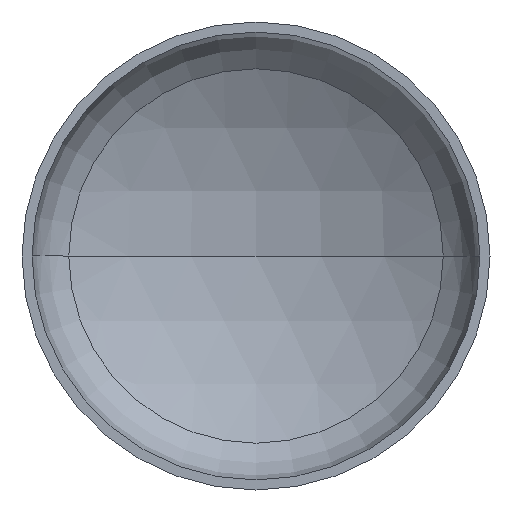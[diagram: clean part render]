
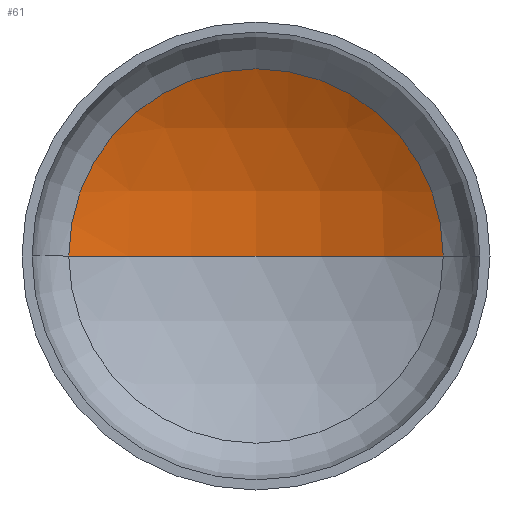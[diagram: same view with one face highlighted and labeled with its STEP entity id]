
A CAD part, front view. The second image highlights one B-rep face of the part: STEP entity #61.
In plain terms, the highlighted spherical face has radius 560 mm.
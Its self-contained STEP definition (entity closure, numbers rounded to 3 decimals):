
#7 = ORIENTED_EDGE ( 'NONE', *, *, #383, .T. ) ;
#8 = AXIS2_PLACEMENT_3D ( 'NONE', #247, #409, #320 ) ;
#17 = EDGE_LOOP ( 'NONE', ( #117, #7, #112 ) ) ;
#30 = AXIS2_PLACEMENT_3D ( 'NONE', #149, #150, #403 ) ;
#49 = DIRECTION ( 'NONE',  ( 0., 0., -1. ) ) ;
#61 = ADVANCED_FACE ( 'NONE', ( #296 ), #142, .F. ) ;
#96 = AXIS2_PLACEMENT_3D ( 'NONE', #363, #294, #359 ) ;
#99 = VERTEX_POINT ( 'NONE', #249 ) ;
#112 = ORIENTED_EDGE ( 'NONE', *, *, #345, .T. ) ;
#117 = ORIENTED_EDGE ( 'NONE', *, *, #381, .F. ) ;
#142 = SPHERICAL_SURFACE ( 'NONE', #96, 560. ) ;
#149 = CARTESIAN_POINT ( 'NONE',  ( 0., 140.263, 0. ) ) ;
#150 = DIRECTION ( 'NONE',  ( 0., -1., 0. ) ) ;
#156 = VERTEX_POINT ( 'NONE', #218 ) ;
#163 = CIRCLE ( 'NONE', #198, 560. ) ;
#198 = AXIS2_PLACEMENT_3D ( 'NONE', #346, #49, #284 ) ;
#218 = CARTESIAN_POINT ( 'NONE',  ( 280., 140.263, 0. ) ) ;
#247 = CARTESIAN_POINT ( 'NONE',  ( 0., -344.711, 0. ) ) ;
#249 = CARTESIAN_POINT ( 'NONE',  ( -280., 140.263, 0. ) ) ;
#277 = CARTESIAN_POINT ( 'NONE',  ( 0., 215.289, 0. ) ) ;
#284 = DIRECTION ( 'NONE',  ( -1., 0., 0. ) ) ;
#294 = DIRECTION ( 'NONE',  ( 0., 0., -1. ) ) ;
#296 = FACE_OUTER_BOUND ( 'NONE', #17, .T. ) ;
#320 = DIRECTION ( 'NONE',  ( 1., 0., 0. ) ) ;
#324 = CIRCLE ( 'NONE', #30, 280. ) ;
#345 = EDGE_CURVE ( 'NONE', #156, #99, #324, .T. ) ;
#346 = CARTESIAN_POINT ( 'NONE',  ( 0., -344.711, 0. ) ) ;
#359 = DIRECTION ( 'NONE',  ( -1., 0., 0. ) ) ;
#363 = CARTESIAN_POINT ( 'NONE',  ( 0., -344.711, 0. ) ) ;
#368 = VERTEX_POINT ( 'NONE', #277 ) ;
#369 = CIRCLE ( 'NONE', #8, 560. ) ;
#381 = EDGE_CURVE ( 'NONE', #368, #99, #369, .T. ) ;
#383 = EDGE_CURVE ( 'NONE', #368, #156, #163, .T. ) ;
#403 = DIRECTION ( 'NONE',  ( 1., 0., 0. ) ) ;
#409 = DIRECTION ( 'NONE',  ( 0., 0., 1. ) ) ;
